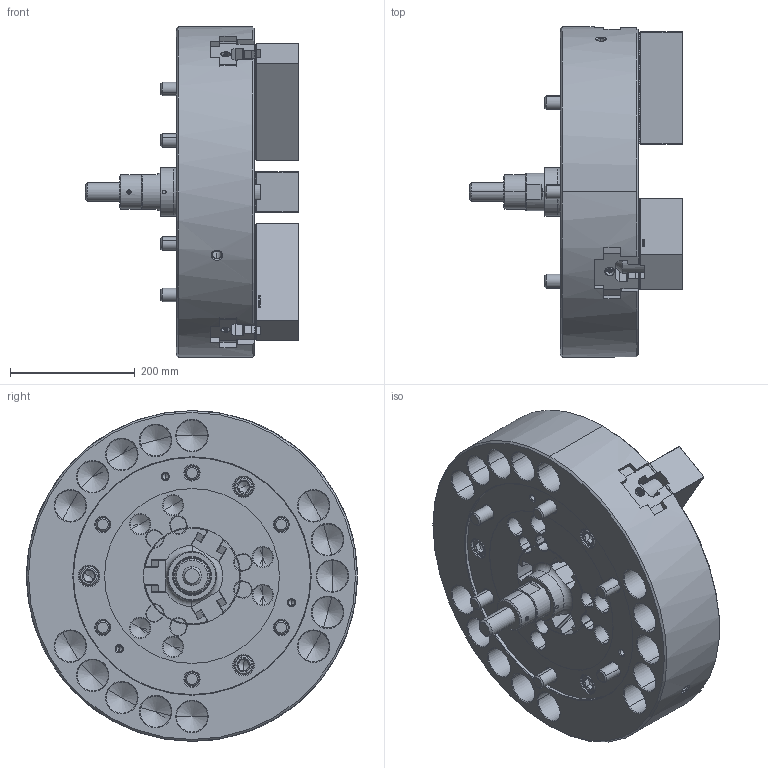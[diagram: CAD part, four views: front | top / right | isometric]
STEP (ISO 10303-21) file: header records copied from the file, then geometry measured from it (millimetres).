
FILE_DESCRIPTION (( 'STEP AP214' ), '1' );
FILE_NAME ('DT1_N-21_OUTSIDE_VIEW_OC.STEP', '2026-03-19T00:04:22', ( '' ), ( '' ), 'SwSTEP 2.0', 'SolidWorks 2022', '' );
FILE_SCHEMA (( 'AUTOMOTIVE_DESIGN' ));
Length unit declared in the file: millimetre
Products named in the file (11): DT1_N-21_SOFTJAW^DT1_N-21; DT1_N-21_M20x60^DT1_N-21; DT1_N-21_DRAWSCREW^DT1_N-21; DT1_N-21_M22x120^DT1_N-21; DT1_N-21_COVER^DT1_N-21; DT1_N-21_TNUT^DT1_N-21; DT1_N-21_OUTSIDE_VIEW_OC; DT1_N-21_DN^DT1_N-21; DT1_N-21_M6x12^DT1_N-21; DT1_N-21_BASE^DT1_N-21; Copy of 61P321208^DT1_N-21
Assembly tree (29 placements, depth 2):
  DT1_N-21_OUTSIDE_VIEW_OC
    DT1_N-21_SOFTJAW^DT1_N-21  x3
    DT1_N-21_TNUT^DT1_N-21  x6
    DT1_N-21_COVER^DT1_N-21
    DT1_N-21_DRAWSCREW^DT1_N-21
    Copy of 61P321208^DT1_N-21
    DT1_N-21_DN^DT1_N-21
    DT1_N-21_BASE^DT1_N-21
    DT1_N-21_M6x12^DT1_N-21  x3
    DT1_N-21_M22x120^DT1_N-21  x6
    DT1_N-21_M20x60^DT1_N-21  x6
Bounding box: 342 x 530 x 530 mm (x, y, z)
Volume: 26160406.2 mm3; surface area: 1652486.8 mm2
Topology: 29 solids, 47 shells, 8182 faces, 23085 edges, 15150 vertices
Faces by surface type: plane 5150, cylinder 1561, bspline 848, cone 537, torus 80, sphere 6
Entity records: 228539 total; most frequent: CARTESIAN_POINT 72796, ORIENTED_EDGE 35294, DIRECTION 27500, EDGE_CURVE 17647, LINE 13232, VECTOR 13232, VERTEX_POINT 11624, AXIS2_PLACEMENT_3D 7134
